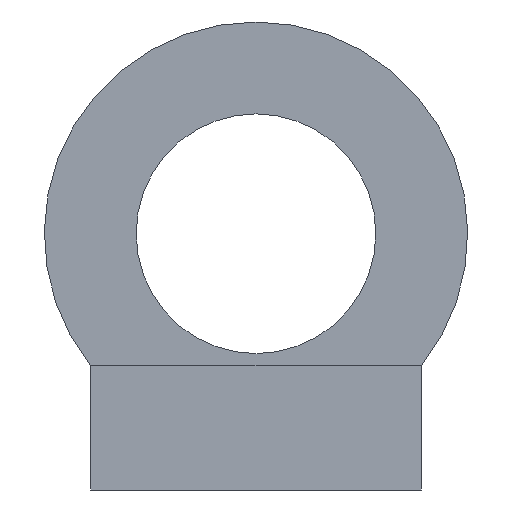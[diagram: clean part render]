
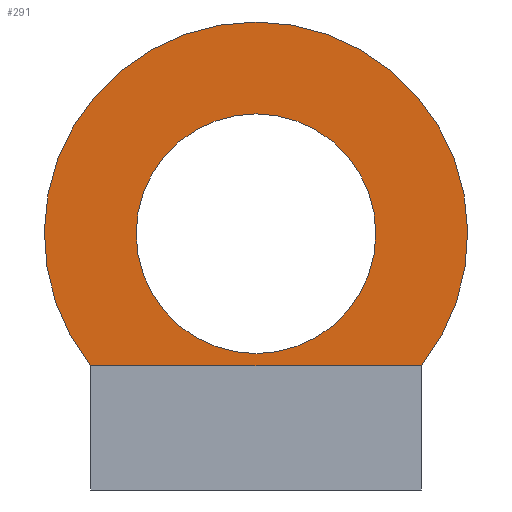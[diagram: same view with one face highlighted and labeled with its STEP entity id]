
A CAD part, front view. The second image highlights one B-rep face of the part: STEP entity #291.
In plain terms, the highlighted planar face has unit normal (0, -1, 0).
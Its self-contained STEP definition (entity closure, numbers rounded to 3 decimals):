
#17=FACE_BOUND('',#60,.T.);
#25=PLANE('',#334);
#40=FACE_OUTER_BOUND('',#59,.T.);
#59=EDGE_LOOP('',(#235,#236,#237));
#60=EDGE_LOOP('',(#238));
#79=LINE('',#469,#104);
#80=LINE('',#471,#105);
#104=VECTOR('',#382,10.);
#105=VECTOR('',#383,10.);
#131=CIRCLE('',#330,2.9);
#132=CIRCLE('',#332,5.122);
#140=VERTEX_POINT('',#447);
#148=VERTEX_POINT('',#468);
#149=VERTEX_POINT('',#470);
#153=VERTEX_POINT('',#480);
#175=EDGE_CURVE('',#148,#140,#79,.T.);
#176=EDGE_CURVE('',#140,#149,#80,.T.);
#182=EDGE_CURVE('',#153,#153,#131,.T.);
#183=EDGE_CURVE('',#148,#149,#132,.T.);
#235=ORIENTED_EDGE('',*,*,#183,.T.);
#236=ORIENTED_EDGE('',*,*,#176,.F.);
#237=ORIENTED_EDGE('',*,*,#175,.F.);
#238=ORIENTED_EDGE('',*,*,#182,.F.);
#291=ADVANCED_FACE('',(#40,#17),#25,.T.);
#330=AXIS2_PLACEMENT_3D('',#482,#392,#393);
#332=AXIS2_PLACEMENT_3D('',#484,#396,#397);
#334=AXIS2_PLACEMENT_3D('',#488,#402,#403);
#382=DIRECTION('',(-1.,0.,0.));
#383=DIRECTION('',(-1.,0.,0.));
#392=DIRECTION('center_axis',(0.,-1.,0.));
#393=DIRECTION('ref_axis',(1.,0.,0.));
#396=DIRECTION('center_axis',(0.,-1.,0.));
#397=DIRECTION('ref_axis',(1.,0.,0.));
#402=DIRECTION('center_axis',(0.,-1.,0.));
#403=DIRECTION('ref_axis',(1.,0.,0.));
#447=CARTESIAN_POINT('',(4.,7.5,3.));
#468=CARTESIAN_POINT('',(8.,7.5,3.));
#469=CARTESIAN_POINT('',(4.,7.5,3.));
#470=CARTESIAN_POINT('',(0.,7.5,3.));
#471=CARTESIAN_POINT('',(4.,7.5,3.));
#480=CARTESIAN_POINT('',(1.1,7.5,6.2));
#482=CARTESIAN_POINT('Origin',(4.,7.5,6.2));
#484=CARTESIAN_POINT('Origin',(4.,7.5,6.2));
#488=CARTESIAN_POINT('Origin',(4.,7.5,6.2));
